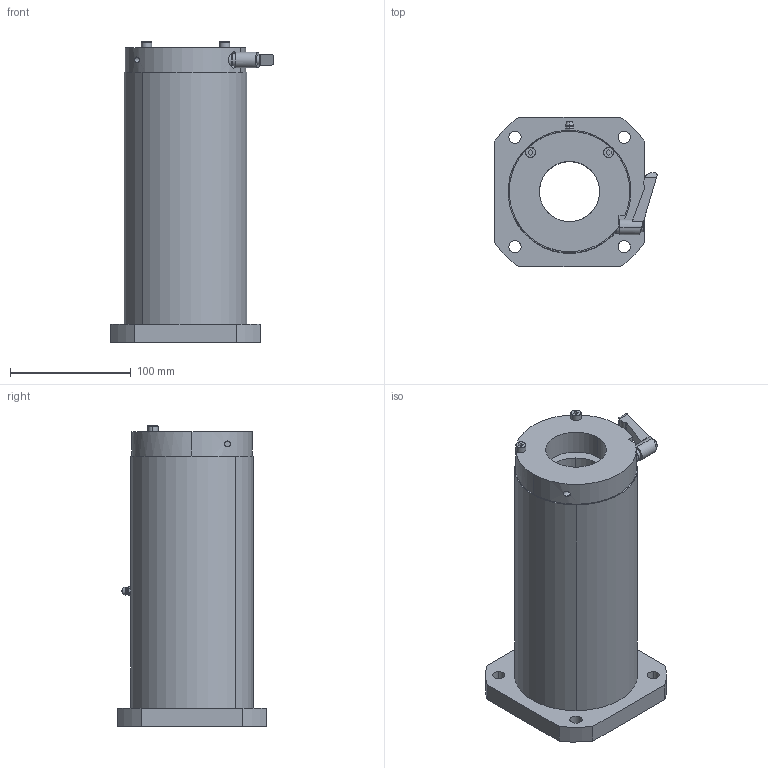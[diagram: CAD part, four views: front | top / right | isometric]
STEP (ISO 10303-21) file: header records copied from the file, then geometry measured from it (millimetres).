
FILE_DESCRIPTION (( 'STEP AP214' ), '1' );
FILE_NAME ('LFWK50-OH-C.STEP', '2023-06-27T02:14:13', ( '' ), ( '' ), 'SwSTEP 2.0', 'SolidWorks 2019', '' );
FILE_SCHEMA (( 'AUTOMOTIVE_DESIGN' ));
Length unit declared in the file: millimetre
Products named in the file (3): LFWK50-OH-C; “ÁSCK5020CO-S5.5; LFWK50-OH
Assembly tree (2 placements, depth 2):
  LFWK50-OH-C
    LFWK50-OH
    “ÁSCK5020CO-S5.5
Bounding box: 134.7 x 124 x 249 mm (x, y, z)
Volume: 1567386.4 mm3; surface area: 186588.2 mm2
Topology: 4 solids, 10 shells, 226 faces, 540 edges, 347 vertices
Faces by surface type: cylinder 84, plane 68, bspline 42, cone 20, torus 8, sphere 4
Entity records: 9728 total; most frequent: CARTESIAN_POINT 2167, DIRECTION 1120, ORIENTED_EDGE 1076, EDGE_CURVE 538, AXIS2_PLACEMENT_3D 457, VERTEX_POINT 346, EDGE_LOOP 274, CIRCLE 268
